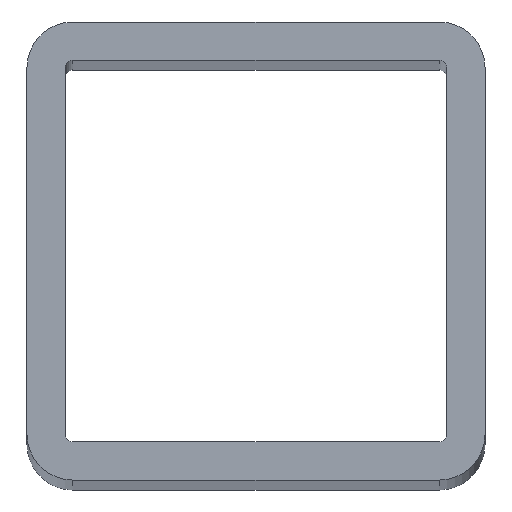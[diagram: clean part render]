
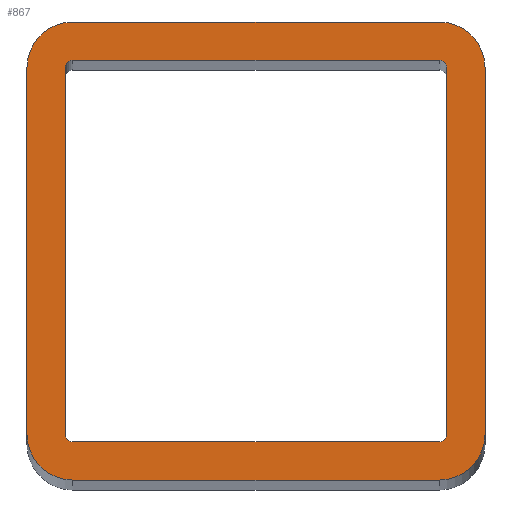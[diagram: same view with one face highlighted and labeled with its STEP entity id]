
A CAD part, top view. The second image highlights one B-rep face of the part: STEP entity #867.
In plain terms, the highlighted planar face has unit normal (0, 0, 1).
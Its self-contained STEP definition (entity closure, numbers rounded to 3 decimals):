
#440=CARTESIAN_POINT('',(-24.,24.,375.));
#441=DIRECTION('',(0.,0.,1.));
#442=DIRECTION('',(0.,1.,0.));
#443=AXIS2_PLACEMENT_3D('',#440,#441,#442);
#448=DIRECTION('',(-1.,0.,0.));
#449=VECTOR('',#448,48.);
#450=CARTESIAN_POINT('',(24.,30.,375.));
#451=LINE('',#450,#449);
#455=CARTESIAN_POINT('',(24.,24.,375.));
#456=DIRECTION('',(0.,0.,1.));
#457=DIRECTION('',(1.,0.,0.));
#458=AXIS2_PLACEMENT_3D('',#455,#456,#457);
#463=DIRECTION('',(0.,1.,0.));
#464=VECTOR('',#463,48.);
#465=CARTESIAN_POINT('',(30.,-24.,375.));
#466=LINE('',#465,#464);
#470=CARTESIAN_POINT('',(24.,-24.,375.));
#471=DIRECTION('',(0.,0.,1.));
#472=DIRECTION('',(0.,-1.,0.));
#473=AXIS2_PLACEMENT_3D('',#470,#471,#472);
#478=DIRECTION('',(1.,0.,0.));
#479=VECTOR('',#478,48.);
#480=CARTESIAN_POINT('',(-24.,-30.,375.));
#481=LINE('',#480,#479);
#485=CARTESIAN_POINT('',(-24.,-24.,375.));
#486=DIRECTION('',(0.,0.,1.));
#487=DIRECTION('',(-1.,0.,0.));
#488=AXIS2_PLACEMENT_3D('',#485,#486,#487);
#493=DIRECTION('',(0.,-1.,0.));
#494=VECTOR('',#493,48.);
#495=CARTESIAN_POINT('',(-30.,24.,375.));
#496=LINE('',#495,#494);
#500=DIRECTION('',(1.,0.,0.));
#501=VECTOR('',#500,48.);
#502=CARTESIAN_POINT('',(-24.,25.,375.));
#503=LINE('',#502,#501);
#507=CARTESIAN_POINT('',(-24.,24.,375.));
#508=DIRECTION('',(0.,0.,-1.));
#509=DIRECTION('',(-1.,0.,0.));
#510=AXIS2_PLACEMENT_3D('',#507,#508,#509);
#515=DIRECTION('',(0.,1.,0.));
#516=VECTOR('',#515,48.);
#517=CARTESIAN_POINT('',(-25.,-24.,375.));
#518=LINE('',#517,#516);
#522=CARTESIAN_POINT('',(-24.,-24.,375.));
#523=DIRECTION('',(0.,0.,-1.));
#524=DIRECTION('',(0.,-1.,0.));
#525=AXIS2_PLACEMENT_3D('',#522,#523,#524);
#530=DIRECTION('',(-1.,0.,0.));
#531=VECTOR('',#530,48.);
#532=CARTESIAN_POINT('',(24.,-25.,375.));
#533=LINE('',#532,#531);
#537=CARTESIAN_POINT('',(24.,-24.,375.));
#538=DIRECTION('',(0.,0.,-1.));
#539=DIRECTION('',(1.,0.,0.));
#540=AXIS2_PLACEMENT_3D('',#537,#538,#539);
#545=DIRECTION('',(0.,-1.,0.));
#546=VECTOR('',#545,48.);
#547=CARTESIAN_POINT('',(25.,24.,375.));
#548=LINE('',#547,#546);
#552=CARTESIAN_POINT('',(24.,24.,375.));
#553=DIRECTION('',(0.,0.,-1.));
#554=DIRECTION('',(0.,1.,0.));
#555=AXIS2_PLACEMENT_3D('',#552,#553,#554);
#648=CARTESIAN_POINT('',(-24.,30.,375.));
#649=CARTESIAN_POINT('',(-30.,24.,375.));
#650=VERTEX_POINT('',#648);
#651=VERTEX_POINT('',#649);
#652=CARTESIAN_POINT('',(-30.,-24.,375.));
#653=VERTEX_POINT('',#652);
#654=CARTESIAN_POINT('',(-24.,-30.,375.));
#655=VERTEX_POINT('',#654);
#656=CARTESIAN_POINT('',(24.,-30.,375.));
#657=VERTEX_POINT('',#656);
#658=CARTESIAN_POINT('',(30.,-24.,375.));
#659=VERTEX_POINT('',#658);
#660=CARTESIAN_POINT('',(30.,24.,375.));
#661=VERTEX_POINT('',#660);
#662=CARTESIAN_POINT('',(24.,30.,375.));
#663=VERTEX_POINT('',#662);
#664=CARTESIAN_POINT('',(-24.,25.,375.));
#665=CARTESIAN_POINT('',(24.,25.,375.));
#666=VERTEX_POINT('',#664);
#667=VERTEX_POINT('',#665);
#668=CARTESIAN_POINT('',(25.,24.,375.));
#669=VERTEX_POINT('',#668);
#670=CARTESIAN_POINT('',(25.,-24.,375.));
#671=VERTEX_POINT('',#670);
#672=CARTESIAN_POINT('',(24.,-25.,375.));
#673=VERTEX_POINT('',#672);
#674=CARTESIAN_POINT('',(-24.,-25.,375.));
#675=VERTEX_POINT('',#674);
#676=CARTESIAN_POINT('',(-25.,-24.,375.));
#677=VERTEX_POINT('',#676);
#678=CARTESIAN_POINT('',(-25.,24.,375.));
#679=VERTEX_POINT('',#678);
#834=CARTESIAN_POINT('',(0.,0.,375.));
#835=DIRECTION('',(0.,0.,1.));
#836=DIRECTION('',(1.,0.,0.));
#837=AXIS2_PLACEMENT_3D('',#834,#835,#836);
#838=PLANE('',#837);
#839=ORIENTED_EDGE('',*,*,#730,.F.);
#840=ORIENTED_EDGE('',*,*,#745,.F.);
#841=ORIENTED_EDGE('',*,*,#759,.F.);
#842=ORIENTED_EDGE('',*,*,#773,.F.);
#843=ORIENTED_EDGE('',*,*,#787,.F.);
#844=ORIENTED_EDGE('',*,*,#801,.F.);
#845=ORIENTED_EDGE('',*,*,#815,.F.);
#846=ORIENTED_EDGE('',*,*,#828,.F.);
#847=EDGE_LOOP('',(#839,#840,#841,#842,#843,#844,#845,#846));
#848=FACE_OUTER_BOUND('',#847,.F.);
#850=ORIENTED_EDGE('',*,*,#849,.F.);
#852=ORIENTED_EDGE('',*,*,#851,.F.);
#854=ORIENTED_EDGE('',*,*,#853,.F.);
#856=ORIENTED_EDGE('',*,*,#855,.F.);
#858=ORIENTED_EDGE('',*,*,#857,.F.);
#860=ORIENTED_EDGE('',*,*,#859,.F.);
#862=ORIENTED_EDGE('',*,*,#861,.F.);
#864=ORIENTED_EDGE('',*,*,#863,.F.);
#865=EDGE_LOOP('',(#850,#852,#854,#856,#858,#860,#862,#864));
#866=FACE_BOUND('',#865,.F.);
#444=CIRCLE('',#443,6.);
#459=CIRCLE('',#458,6.);
#474=CIRCLE('',#473,6.);
#489=CIRCLE('',#488,6.);
#511=CIRCLE('',#510,1.);
#526=CIRCLE('',#525,1.);
#541=CIRCLE('',#540,1.);
#556=CIRCLE('',#555,1.);
#730=EDGE_CURVE('',#650,#651,#444,.T.);
#745=EDGE_CURVE('',#663,#650,#451,.T.);
#759=EDGE_CURVE('',#661,#663,#459,.T.);
#773=EDGE_CURVE('',#659,#661,#466,.T.);
#787=EDGE_CURVE('',#657,#659,#474,.T.);
#801=EDGE_CURVE('',#655,#657,#481,.T.);
#815=EDGE_CURVE('',#653,#655,#489,.T.);
#828=EDGE_CURVE('',#651,#653,#496,.T.);
#849=EDGE_CURVE('',#666,#667,#503,.T.);
#851=EDGE_CURVE('',#679,#666,#511,.T.);
#853=EDGE_CURVE('',#677,#679,#518,.T.);
#855=EDGE_CURVE('',#675,#677,#526,.T.);
#857=EDGE_CURVE('',#673,#675,#533,.T.);
#859=EDGE_CURVE('',#671,#673,#541,.T.);
#861=EDGE_CURVE('',#669,#671,#548,.T.);
#863=EDGE_CURVE('',#667,#669,#556,.T.);
#867=ADVANCED_FACE('',(#848,#866),#838,.T.);
